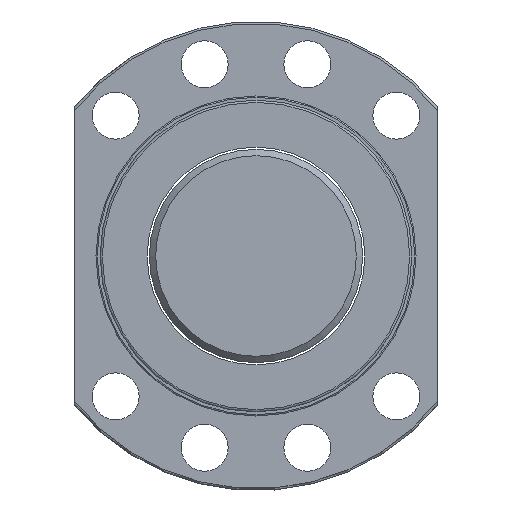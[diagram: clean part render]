
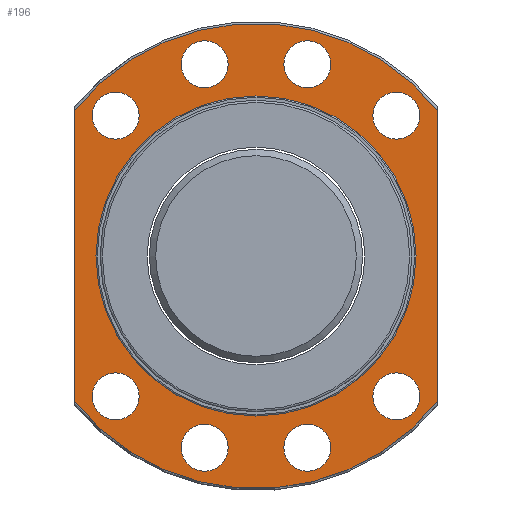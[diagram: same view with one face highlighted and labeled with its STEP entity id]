
A CAD part, left-side view. The second image highlights one B-rep face of the part: STEP entity #196.
In plain terms, the highlighted planar face has unit normal (-1, 0, 0).
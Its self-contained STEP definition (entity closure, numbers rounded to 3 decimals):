
#109=LINE('',#1171,#117);
#110=LINE('',#1172,#118);
#117=VECTOR('',#851,1.);
#118=VECTOR('',#852,1.);
#152=PLANE('',#707);
#172=FACE_OUTER_BOUND('',#332,.T.);
#196=ADVANCED_FACE('',(#246,#247,#248,#249,#250,#251,#252,#253,#254,#172),
#152,.F.);
#246=FACE_BOUND('',#323,.T.);
#247=FACE_BOUND('',#324,.T.);
#248=FACE_BOUND('',#325,.T.);
#249=FACE_BOUND('',#326,.T.);
#250=FACE_BOUND('',#327,.T.);
#251=FACE_BOUND('',#328,.T.);
#252=FACE_BOUND('',#329,.T.);
#253=FACE_BOUND('',#330,.T.);
#254=FACE_BOUND('',#331,.T.);
#323=EDGE_LOOP('',(#428));
#324=EDGE_LOOP('',(#429));
#325=EDGE_LOOP('',(#430));
#326=EDGE_LOOP('',(#431));
#327=EDGE_LOOP('',(#432));
#328=EDGE_LOOP('',(#433));
#329=EDGE_LOOP('',(#434));
#330=EDGE_LOOP('',(#435));
#331=EDGE_LOOP('',(#436));
#332=EDGE_LOOP('',(#437,#438,#439,#440));
#428=ORIENTED_EDGE('',*,*,#588,.T.);
#429=ORIENTED_EDGE('',*,*,#589,.T.);
#430=ORIENTED_EDGE('',*,*,#590,.T.);
#431=ORIENTED_EDGE('',*,*,#591,.T.);
#432=ORIENTED_EDGE('',*,*,#592,.T.);
#433=ORIENTED_EDGE('',*,*,#593,.T.);
#434=ORIENTED_EDGE('',*,*,#594,.T.);
#435=ORIENTED_EDGE('',*,*,#595,.T.);
#436=ORIENTED_EDGE('',*,*,#596,.T.);
#437=ORIENTED_EDGE('',*,*,#597,.F.);
#438=ORIENTED_EDGE('',*,*,#582,.F.);
#439=ORIENTED_EDGE('',*,*,#598,.T.);
#440=ORIENTED_EDGE('',*,*,#586,.F.);
#525=VERTEX_POINT('',#1070);
#526=VERTEX_POINT('',#1071);
#527=VERTEX_POINT('',#1130);
#528=VERTEX_POINT('',#1132);
#529=VERTEX_POINT('',#1154);
#530=VERTEX_POINT('',#1156);
#531=VERTEX_POINT('',#1158);
#532=VERTEX_POINT('',#1160);
#533=VERTEX_POINT('',#1162);
#534=VERTEX_POINT('',#1164);
#535=VERTEX_POINT('',#1166);
#536=VERTEX_POINT('',#1168);
#537=VERTEX_POINT('',#1170);
#582=EDGE_CURVE('',#525,#526,#633,.T.);
#586=EDGE_CURVE('',#527,#528,#634,.T.);
#588=EDGE_CURVE('',#529,#529,#635,.T.);
#589=EDGE_CURVE('',#530,#530,#636,.T.);
#590=EDGE_CURVE('',#531,#531,#637,.T.);
#591=EDGE_CURVE('',#532,#532,#638,.T.);
#592=EDGE_CURVE('',#533,#533,#639,.T.);
#593=EDGE_CURVE('',#534,#534,#640,.T.);
#594=EDGE_CURVE('',#535,#535,#641,.T.);
#595=EDGE_CURVE('',#536,#536,#642,.T.);
#596=EDGE_CURVE('',#537,#537,#643,.T.);
#597=EDGE_CURVE('',#526,#527,#109,.T.);
#598=EDGE_CURVE('',#525,#528,#110,.T.);
#633=CIRCLE('',#694,54.5);
#634=CIRCLE('',#696,54.5);
#635=CIRCLE('',#698,37.5);
#636=CIRCLE('',#699,5.5);
#637=CIRCLE('',#700,5.5);
#638=CIRCLE('',#701,5.5);
#639=CIRCLE('',#702,5.5);
#640=CIRCLE('',#703,5.5);
#641=CIRCLE('',#704,5.5);
#642=CIRCLE('',#705,5.5);
#643=CIRCLE('',#706,5.5);
#694=AXIS2_PLACEMENT_3D('',#1069,#825,#826);
#696=AXIS2_PLACEMENT_3D('',#1131,#829,#830);
#698=AXIS2_PLACEMENT_3D('',#1153,#833,#834);
#699=AXIS2_PLACEMENT_3D('',#1155,#835,#836);
#700=AXIS2_PLACEMENT_3D('',#1157,#837,#838);
#701=AXIS2_PLACEMENT_3D('',#1159,#839,#840);
#702=AXIS2_PLACEMENT_3D('',#1161,#841,#842);
#703=AXIS2_PLACEMENT_3D('',#1163,#843,#844);
#704=AXIS2_PLACEMENT_3D('',#1165,#845,#846);
#705=AXIS2_PLACEMENT_3D('',#1167,#847,#848);
#706=AXIS2_PLACEMENT_3D('',#1169,#849,#850);
#707=AXIS2_PLACEMENT_3D('',#1173,#853,#854);
#825=DIRECTION('',(1.,0.,0.));
#826=DIRECTION('',(0.,1.,0.));
#829=DIRECTION('',(1.,0.,0.));
#830=DIRECTION('',(0.,1.,0.));
#833=DIRECTION('',(1.,0.,0.));
#834=DIRECTION('',(0.,1.,0.));
#835=DIRECTION('',(1.,0.,0.));
#836=DIRECTION('',(0.,1.,0.));
#837=DIRECTION('',(1.,0.,0.));
#838=DIRECTION('',(0.,1.,0.));
#839=DIRECTION('',(1.,0.,0.));
#840=DIRECTION('',(0.,1.,0.));
#841=DIRECTION('',(1.,0.,0.));
#842=DIRECTION('',(0.,1.,0.));
#843=DIRECTION('',(1.,0.,0.));
#844=DIRECTION('',(0.,1.,0.));
#845=DIRECTION('',(1.,0.,0.));
#846=DIRECTION('',(0.,1.,0.));
#847=DIRECTION('',(1.,0.,0.));
#848=DIRECTION('',(0.,1.,0.));
#849=DIRECTION('',(1.,0.,0.));
#850=DIRECTION('',(0.,1.,0.));
#851=DIRECTION('',(0.,0.,1.));
#852=DIRECTION('',(0.,0.,1.));
#853=DIRECTION('',(1.,0.,0.));
#854=DIRECTION('',(0.,1.,0.));
#1069=CARTESIAN_POINT('',(85.175,0.,0.));
#1070=CARTESIAN_POINT('',(85.175,-42.5,-34.117));
#1071=CARTESIAN_POINT('',(85.175,42.5,-34.117));
#1130=CARTESIAN_POINT('',(85.175,42.5,34.117));
#1131=CARTESIAN_POINT('',(85.175,0.,0.));
#1132=CARTESIAN_POINT('',(85.175,-42.5,34.117));
#1153=CARTESIAN_POINT('',(85.175,0.,0.));
#1154=CARTESIAN_POINT('',(85.175,37.5,0.));
#1155=CARTESIAN_POINT('',(85.175,12.035,44.916));
#1156=CARTESIAN_POINT('',(85.175,17.535,44.916));
#1157=CARTESIAN_POINT('',(85.175,-12.035,44.916));
#1158=CARTESIAN_POINT('',(85.175,-6.535,44.916));
#1159=CARTESIAN_POINT('',(85.175,-12.035,-44.916));
#1160=CARTESIAN_POINT('',(85.175,-6.535,-44.916));
#1161=CARTESIAN_POINT('',(85.175,12.035,-44.916));
#1162=CARTESIAN_POINT('',(85.175,17.535,-44.916));
#1163=CARTESIAN_POINT('',(85.175,-32.881,32.881));
#1164=CARTESIAN_POINT('',(85.175,-27.381,32.881));
#1165=CARTESIAN_POINT('',(85.175,32.88,32.881));
#1166=CARTESIAN_POINT('',(85.175,38.38,32.881));
#1167=CARTESIAN_POINT('',(85.175,-32.881,-32.881));
#1168=CARTESIAN_POINT('',(85.175,-27.381,-32.881));
#1169=CARTESIAN_POINT('',(85.175,32.88,-32.881));
#1170=CARTESIAN_POINT('',(85.175,38.38,-32.881));
#1171=CARTESIAN_POINT('',(85.175,42.5,0.));
#1172=CARTESIAN_POINT('',(85.175,-42.5,0.));
#1173=CARTESIAN_POINT('',(85.175,46.,0.));
